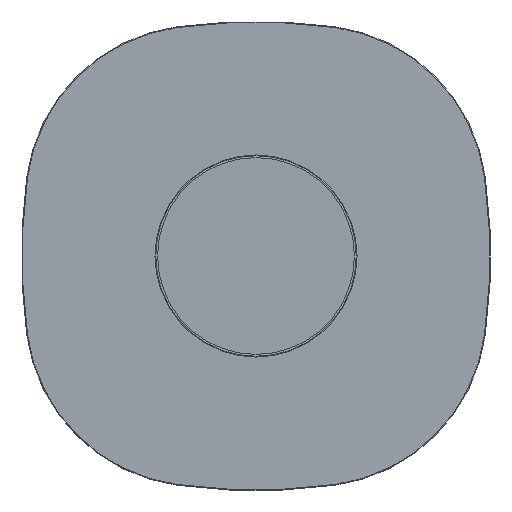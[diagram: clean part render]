
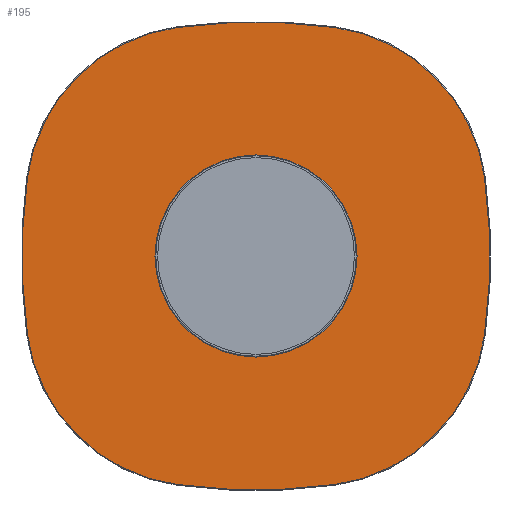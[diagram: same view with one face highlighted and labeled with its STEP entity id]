
A CAD part, front view. The second image highlights one B-rep face of the part: STEP entity #195.
In plain terms, the highlighted planar face has unit normal (0, -1, 0).
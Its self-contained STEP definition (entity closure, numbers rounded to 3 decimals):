
#105=CARTESIAN_POINT('',(0.,557.451,0.));
#106=DIRECTION('',(0.0,1.0,0.0));
#107=DIRECTION('',(0.0,0.0,-1.0));
#108=AXIS2_PLACEMENT_3D('',#105,#106,#107);
#109=PLANE('',#108);
#110=CARTESIAN_POINT('',(301.992,557.451,104.053));
#111=VERTEX_POINT('',#110);
#112=CARTESIAN_POINT('',(301.992,557.451,-104.053));
#113=VERTEX_POINT('',#112);
#114=CARTESIAN_POINT('',(-467.,557.451,0.));
#115=DIRECTION('',(0.,1.0,0.));
#116=DIRECTION('',(0.991,0.,0.134));
#117=AXIS2_PLACEMENT_3D('',#114,#115,#116);
#118=CIRCLE('',#117,776.0);
#119=EDGE_CURVE('',#111,#113,#118,.T.);
#120=ORIENTED_EDGE('',*,*,#119,.F.);
#121=CARTESIAN_POINT('',(104.053,557.451,301.992));
#122=VERTEX_POINT('',#121);
#123=CARTESIAN_POINT('',(73.078,557.451,73.078));
#124=DIRECTION('',(0.,1.0,0.));
#125=DIRECTION('',(0.134,0.,0.991));
#126=AXIS2_PLACEMENT_3D('',#123,#124,#125);
#127=CIRCLE('',#126,231.);
#128=EDGE_CURVE('',#122,#111,#127,.T.);
#129=ORIENTED_EDGE('',*,*,#128,.F.);
#130=CARTESIAN_POINT('',(-104.053,557.451,301.992));
#131=VERTEX_POINT('',#130);
#132=CARTESIAN_POINT('',(0.,557.451,-467.0));
#133=DIRECTION('',(0.,1.0,0.));
#134=DIRECTION('',(-0.134,0.,0.991));
#135=AXIS2_PLACEMENT_3D('',#132,#133,#134);
#136=CIRCLE('',#135,776.);
#137=EDGE_CURVE('',#131,#122,#136,.T.);
#138=ORIENTED_EDGE('',*,*,#137,.F.);
#139=CARTESIAN_POINT('',(-301.992,557.451,104.053));
#140=VERTEX_POINT('',#139);
#141=CARTESIAN_POINT('',(-73.078,557.451,73.078));
#142=DIRECTION('',(0.,1.0,0.));
#143=DIRECTION('',(-0.991,0.,0.134));
#144=AXIS2_PLACEMENT_3D('',#141,#142,#143);
#145=CIRCLE('',#144,231.);
#146=EDGE_CURVE('',#140,#131,#145,.T.);
#147=ORIENTED_EDGE('',*,*,#146,.F.);
#148=CARTESIAN_POINT('',(-301.992,557.451,-104.053));
#149=VERTEX_POINT('',#148);
#150=CARTESIAN_POINT('',(467.,557.451,0.));
#151=DIRECTION('',(0.,1.0,0.));
#152=DIRECTION('',(-0.991,0.,-0.134));
#153=AXIS2_PLACEMENT_3D('',#150,#151,#152);
#154=CIRCLE('',#153,776.);
#155=EDGE_CURVE('',#149,#140,#154,.T.);
#156=ORIENTED_EDGE('',*,*,#155,.F.);
#157=CARTESIAN_POINT('',(-104.053,557.451,-301.992));
#158=VERTEX_POINT('',#157);
#159=CARTESIAN_POINT('',(-73.078,557.451,-73.078));
#160=DIRECTION('',(0.,1.0,0.));
#161=DIRECTION('',(-0.134,0.,-0.991));
#162=AXIS2_PLACEMENT_3D('',#159,#160,#161);
#163=CIRCLE('',#162,231.);
#164=EDGE_CURVE('',#158,#149,#163,.T.);
#165=ORIENTED_EDGE('',*,*,#164,.F.);
#166=CARTESIAN_POINT('',(104.053,557.451,-301.992));
#167=VERTEX_POINT('',#166);
#168=CARTESIAN_POINT('',(0.,557.451,467.0));
#169=DIRECTION('',(0.,1.0,0.));
#170=DIRECTION('',(0.134,0.,-0.991));
#171=AXIS2_PLACEMENT_3D('',#168,#169,#170);
#172=CIRCLE('',#171,776.0);
#173=EDGE_CURVE('',#167,#158,#172,.T.);
#174=ORIENTED_EDGE('',*,*,#173,.F.);
#175=CARTESIAN_POINT('',(73.078,557.451,-73.078));
#176=DIRECTION('',(0.,1.0,0.));
#177=DIRECTION('',(0.991,0.,-0.134));
#178=AXIS2_PLACEMENT_3D('',#175,#176,#177);
#179=CIRCLE('',#178,231.);
#180=EDGE_CURVE('',#113,#167,#179,.T.);
#181=ORIENTED_EDGE('',*,*,#180,.F.);
#182=EDGE_LOOP('',(#120,#129,#138,#147,#156,#165,#174,#181));
#183=FACE_OUTER_BOUND('',#182,.T.);
#184=CARTESIAN_POINT('',(0.,557.451,-19.75));
#185=VERTEX_POINT('',#184);
#186=CARTESIAN_POINT('',(0.,557.451,0.));
#187=DIRECTION('',(0.0,-1.0,0.0));
#188=DIRECTION('',(0.0,0.0,1.0));
#189=AXIS2_PLACEMENT_3D('',#186,#187,#188);
#190=CIRCLE('',#189,19.75);
#191=EDGE_CURVE('',#185,#185,#190,.T.);
#192=ORIENTED_EDGE('',*,*,#191,.F.);
#193=EDGE_LOOP('',(#192));
#194=FACE_BOUND('',#193,.T.);
#195=ADVANCED_FACE('',(#183,#194),#109,.F.);
